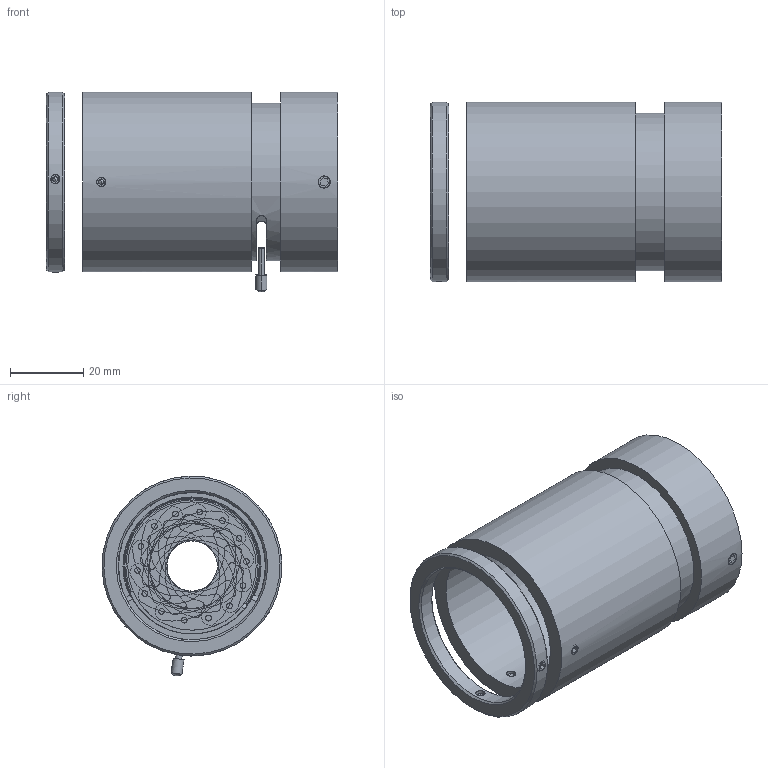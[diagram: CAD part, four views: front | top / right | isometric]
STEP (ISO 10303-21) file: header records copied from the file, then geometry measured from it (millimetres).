
FILE_DESCRIPTION (( 'STEP AP203' ), '1' );
FILE_NAME ('Ass, VIL-FA-1.STEP', '2024-02-23T04:29:45', ( '' ), ( '' ), 'SwSTEP 2.0', 'SolidWorks 2023', '' );
FILE_SCHEMA (( 'CONFIG_CONTROL_DESIGN' ));
Length unit declared in the file: millimetre
Products named in the file (1): Ass, VIL-FA-1
Bounding box: 79.42 x 49.03 x 54.44 mm (x, y, z)
Surface area: 27464.3 mm2 (no closed solid volume)
Topology: 0 solids, 46 shells, 196 faces, 575 edges, 413 vertices
Faces by surface type: plane 90, cylinder 66, cone 38, sphere 2
Full cylindrical faces by diameter (mm): 2.5 x4, 3.3 x2, 37.02 x1, 40 x1, 40.2 x2, 43 x1, 49 x3
Entity records: 6946 total; most frequent: CARTESIAN_POINT 1798, DIRECTION 1153, ORIENTED_EDGE 792, EDGE_CURVE 521, AXIS2_PLACEMENT_3D 460, VERTEX_POINT 398, EDGE_LOOP 276, CIRCLE 263
